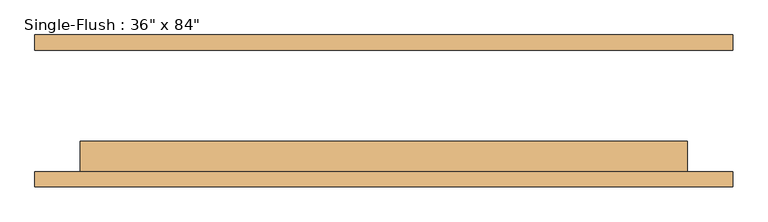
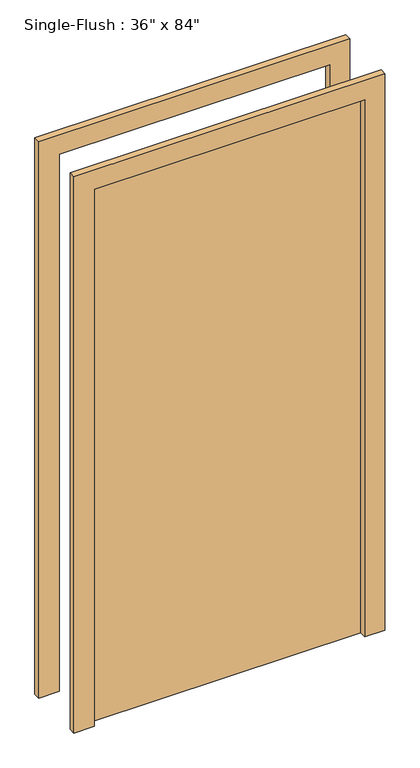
"""IFC4 building model written with IfcOpenShell, lengths in millimetres: door geometry."""

from ifc_helpers import new_model, si_unit, frame, origin, origin_with_axes, place, context, project, spatial, polyline, outline, extrude, source, transform, mapped, element, save


def door_11de03bc(model_context):
    return source(origin(), model_context, "Body", "SweptSolid", [
        extrude(outline(polyline([(2209.8, -584.2), (0.0, -584.2), (0.0, -508.0), (2133.6, -508.0), (2133.6, 508.0), (0.0, 508.0), (0.0, 584.2), (2209.8, 584.2), (2209.8, -584.2)])), frame((0.0, -127.0, 0.0), z_axis=(0.0, 1.0, 0.0), x_axis=(0.0, 0.0, 1.0)), (0.0, 0.0, 1.0), 25.4),
        extrude(outline(polyline([(2209.8, 584.2), (2209.8, -584.2), (0.0, -584.2), (0.0, -508.0), (2133.6, -508.0), (2133.6, 508.0), (0.0, 508.0), (0.0, 584.2), (2209.8, 584.2)])), frame((0.0, 101.6, 0.0), z_axis=(0.0, 1.0, 0.0), x_axis=(0.0, 0.0, 1.0)), (0.0, 0.0, 1.0), 25.4),
        extrude(outline(polyline([(508.0, -50.8), (508.0, -101.6), (-508.0, -101.6), (-508.0, -50.8), (508.0, -50.8)])), origin_with_axes(), (0.0, 0.0, 1.0), 2133.6),
    ])


if __name__ == "__main__":
    model = new_model("IFC4")
    model_context = context("Model", 3, world=origin())
    ifc_project = project(units=[si_unit("LENGTHUNIT", "METRE", prefix="MILLI")], contexts=[model_context])
    site = spatial("IfcSite", under=ifc_project)
    building = spatial("IfcBuilding", under=site)
    placement = place(None, origin())
    door_shape = door_11de03bc(model_context)
    element("IfcDoor", 1, ObjectType="Single-Flush : 36\" x 84\"", at=placement, inside=building, context=model_context, shape_type="MappedRepresentation", body=[
        mapped(door_shape, transform((0.0, 0.0, 0.0), x_axis=(1.0, 0.0, 0.0), y_axis=(0.0, 1.0, 0.0), z_axis=(0.0, 0.0, 1.0))),
    ])
    save(model, "model.ifc")
